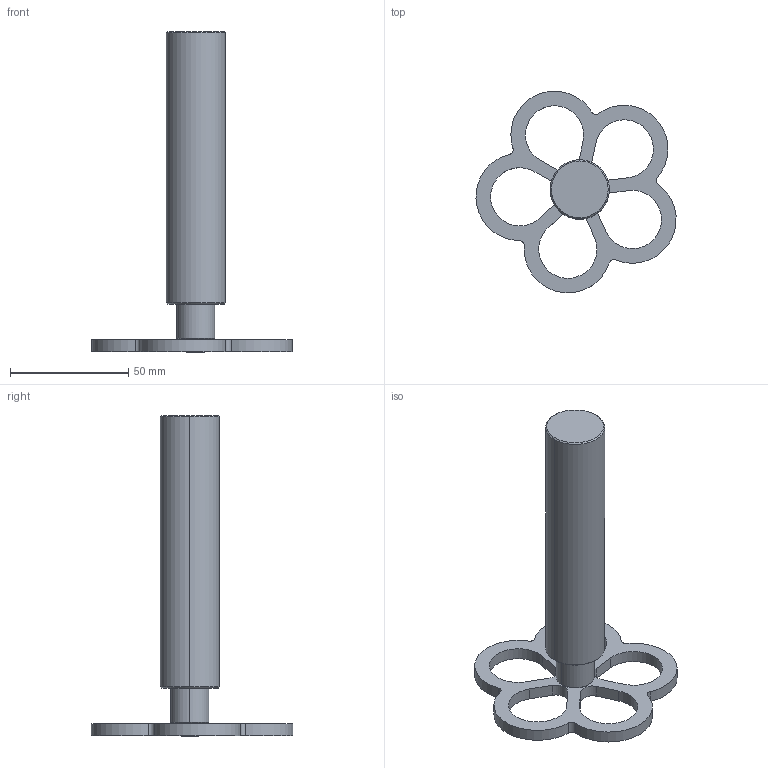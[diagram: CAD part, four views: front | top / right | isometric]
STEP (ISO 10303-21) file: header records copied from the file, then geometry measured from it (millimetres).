
FILE_DESCRIPTION((''),'2;1');
FILE_NAME('P909','2023-02-10T14:43:09',('matteo.follador'),(''),'CREO PARAMETRIC BY PTC INC, 2020281','CREO PARAMETRIC BY PTC INC, 2020281','');
FILE_SCHEMA(('AUTOMOTIVE_DESIGN { 1 0 10303 214 1 1 1 1 }'));
Length unit declared in the file: millimetre
Products named in the file (1): P909
Bounding box: 84.44 x 85.11 x 135.37 mm (x, y, z)
Volume: 71736.6 mm3; surface area: 18787.6 mm2
Topology: 1 solids, 1 shells, 58 faces, 148 edges, 96 vertices
Faces by surface type: cylinder 26, plane 22, cone 10
Entity records: 2375 total; most frequent: DIRECTION 352, CARTESIAN_POINT 319, ORIENTED_EDGE 296, EDGE_CURVE 148, AXIS2_PLACEMENT_3D 132, VERTEX_POINT 96, VECTOR 85, LINE 85
